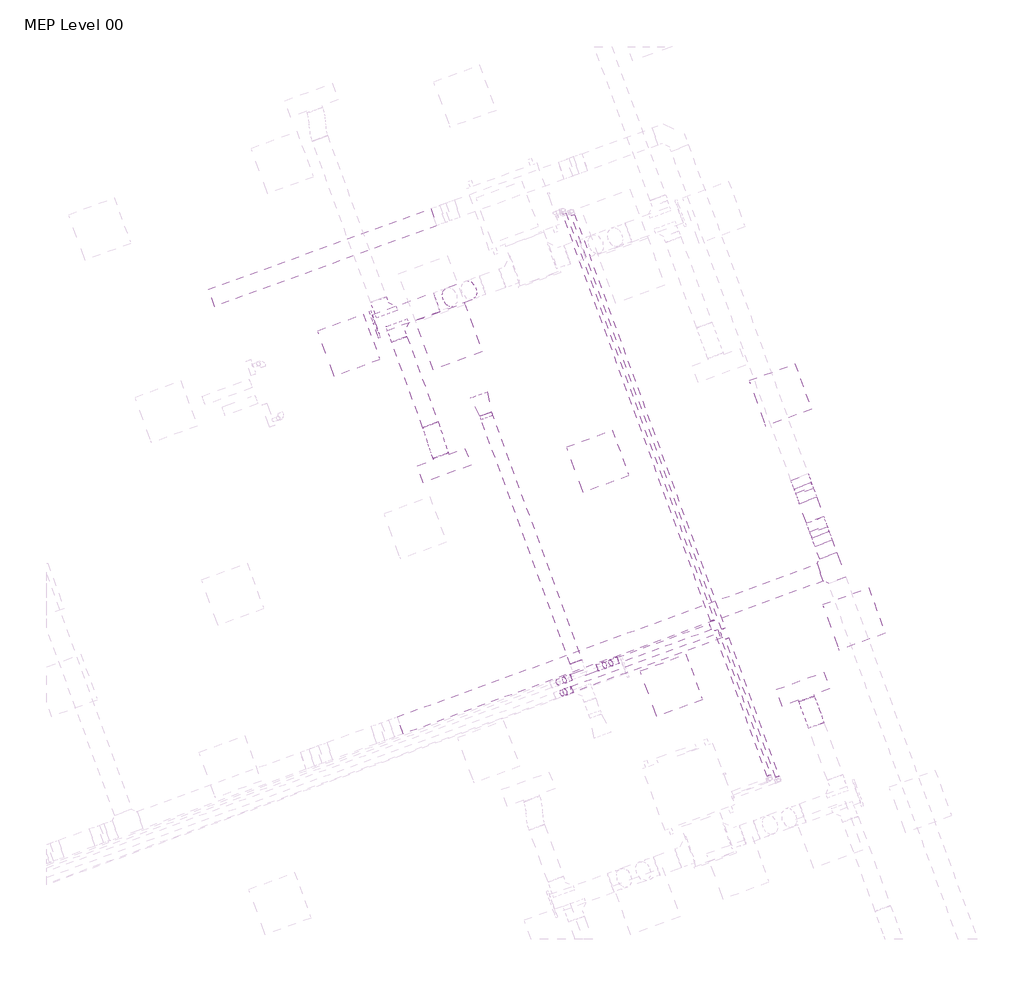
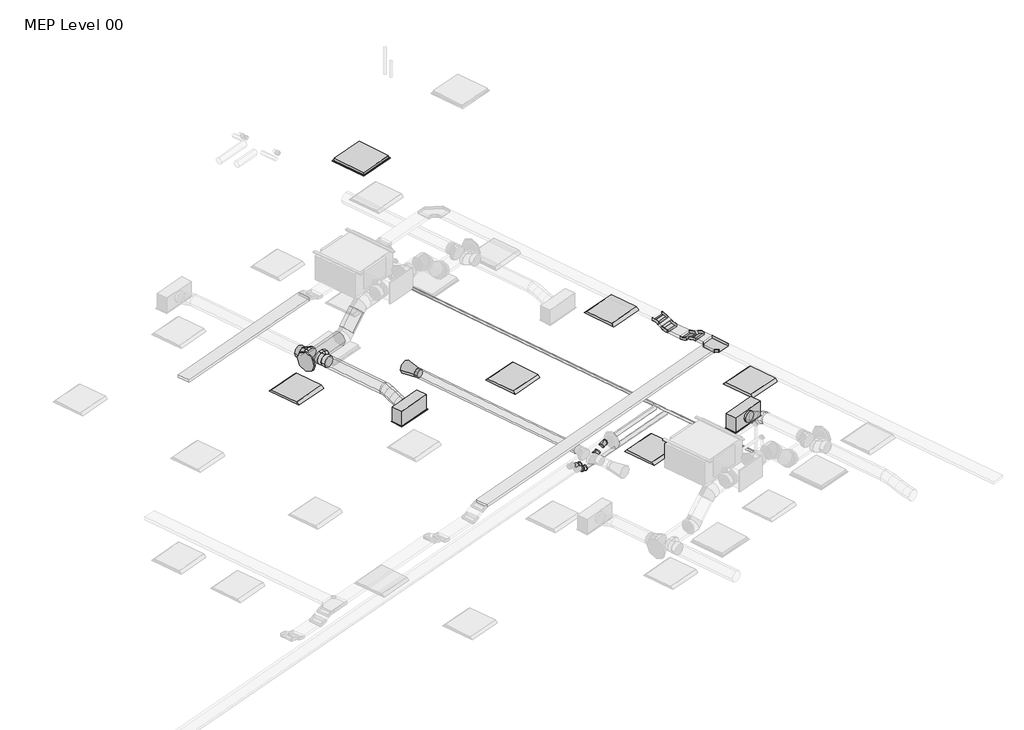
# One storey, part 31 of 33: 10 pipe segments, 6 cable carrier segments, 6 duct segments, 5 cable carrier fittings, 5 light fixtures, 4 air terminals, 4 pipe fittings, 3 duct fittings.
"""IFC4 building model written with IfcOpenShell, lengths in millimetres."""

from ifc_helpers import new_model, si_unit, point, frame, frame_2d, origin, place, context, project, spatial, polyline, circle_curve, ellipse_curve, trimmed, segment, composite_curve, outline, extrude, transform, mapped, element, save
from ifc_brep_helpers import plane_surface, cylinder_surface, advanced_brep
from components import air_terminal_b88b8e4d, return_grille_rectangular_hosted_standard_7b12617c, supply_diffuser_with_plenum_linear_slot_hosted_8c379eed, cable_tray_horizontal_tee_standard_d76b5e15, cable_tray_vertical_inside_bend_standard_9a66f55b, cable_tray_vertical_outside_bend_standard_4df2047e, dw144_round_blank_end_standard_e3d0b58b, dw144_round_shoe_branch_slip_joint_standard_559552f4, light_fixture_600x600_230_1c7c1157, light_fixture_600x600_230_b730b5ca, elbow_threaded_gmi_standard_e52ea759

model = new_model("IFC4")

# Units and contexts
model_context = context("Model", 3, world=origin())
ifc_project = project(units=[si_unit("LENGTHUNIT", "METRE", prefix="MILLI")], contexts=[model_context])

# Site, building, storey
site = spatial("IfcSite", under=ifc_project)
building = spatial("IfcBuilding", under=site)
storey = spatial("IfcBuildingStorey", under=building, Name="MEP Level 00", Elevation=0.0)

# Air terminals
placement = place(None, origin())
air_terminal_shape = air_terminal_b88b8e4d(model_context)
element("IfcAirTerminal", 1, ObjectType="Supply_Bell_Mouth_Grille : Supply_Bell_Mouth_Grille", at=placement, inside=storey, context=model_context, shape_type="MappedRepresentation", body=[
    mapped(air_terminal_shape, transform((58081.5319053, 19738.0197173, 3050.0), x_axis=(-0.3420201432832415, 0.9396926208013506, 0.0), y_axis=(-0.9396926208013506, -0.3420201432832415, 0.0), z_axis=(0.0, 0.0, 1.0))),
])
return_grille_rectangular_hosted_standard_shape = return_grille_rectangular_hosted_standard_7b12617c(model_context)
element("IfcAirTerminal", 2, ObjectType="Return Grille - Rectangular - Hosted : Standard", at=placement, inside=storey, context=model_context, shape_type="MappedRepresentation", body=[
    mapped(return_grille_rectangular_hosted_standard_shape, transform((57626.8548517, 20697.8106845, 6700.0), x_axis=(0.939692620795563, 0.34202014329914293, 0.0), y_axis=(0.34202014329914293, -0.939692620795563, 0.0), z_axis=(0.0, 0.0, -1.0))),
])
supply_diffuser_with_plenum_linear_slot_hosted_shape = supply_diffuser_with_plenum_linear_slot_hosted_8c379eed(model_context)
element("IfcAirTerminal", 3, ObjectType="Supply Diffuser with Plenum - Linear Slot - Hosted : 600mmx193.8mm-200 In Inlet  4-Slot", at=placement, inside=storey, context=model_context, shape_type="MappedRepresentation", body=[
    mapped(supply_diffuser_with_plenum_linear_slot_hosted_shape, transform((57569.9644345, 19099.8331807, 2800.0), x_axis=(0.939692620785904, 0.342020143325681, 0.0), y_axis=(0.342020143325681, -0.939692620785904, 0.0), z_axis=(0.0, 0.0, -1.0))),
])
element("IfcAirTerminal", 4, ObjectType="Supply Diffuser with Plenum - Linear Slot - Hosted : 600mmx193.8mm-200 In Inlet  4-Slot", at=placement, inside=storey, context=model_context, shape_type="MappedRepresentation", body=[
    mapped(supply_diffuser_with_plenum_linear_slot_hosted_shape, transform((62001.2706716, 16338.1811806, 2800.0), x_axis=(-0.9396926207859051, -0.3420201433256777, 0.0), y_axis=(-0.3420201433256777, 0.9396926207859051, 0.0), z_axis=(0.0, 0.0, -1.0))),
])

# Cable carrier fittings
cable_tray_horizontal_tee_standard_shape = cable_tray_horizontal_tee_standard_d76b5e15(model_context)
element("IfcCableCarrierFitting", 5, ObjectType="Cable Tray Horizontal Tee : Standard", at=placement, inside=storey, context=model_context, shape_type="MappedRepresentation", body=[
    mapped(cable_tray_horizontal_tee_standard_shape, transform((62366.6932534, 17834.0619919, 3248.9627355), x_axis=(0.3420201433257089, -0.9396926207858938, 0.0), y_axis=(0.9396926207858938, 0.3420201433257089, 0.0), z_axis=(0.0, 0.0, 1.0))),
])
cable_tray_vertical_inside_bend_standard_shape = cable_tray_vertical_inside_bend_standard_9a66f55b(model_context)
element("IfcCableCarrierFitting", 6, ObjectType="Cable Tray Vertical Inside Bend : Standard", at=placement, inside=storey, context=model_context, shape_type="MappedRepresentation", body=[
    mapped(cable_tray_vertical_inside_bend_standard_shape, transform((62173.4812107, 18364.9077165, 3148.9627355), x_axis=(0.3420201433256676, -0.9396926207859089, 0.0), y_axis=(0.0, 0.0, 1.0000000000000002), z_axis=(-0.9396926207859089, -0.3420201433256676, 0.0))),
])
element("IfcCableCarrierFitting", 7, ObjectType="Cable Tray Vertical Inside Bend : Standard", at=placement, inside=storey, context=model_context, shape_type="MappedRepresentation", body=[
    mapped(cable_tray_vertical_inside_bend_standard_shape, transform((62039.8978743, 18731.9249168, 3148.9627355), x_axis=(0.29619813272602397, -0.8137976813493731, -0.5000000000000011), y_axis=(0.17101007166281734, -0.4698463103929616, 0.8660254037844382), z_axis=(-0.9396926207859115, -0.3420201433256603, 0.0))),
])
cable_tray_vertical_outside_bend_standard_shape = cable_tray_vertical_outside_bend_standard_4df2047e(model_context)
element("IfcCableCarrierFitting", 8, ObjectType="Cable Tray Vertical Outside Bend : Standard", at=placement, inside=storey, context=model_context, shape_type="MappedRepresentation", body=[
    mapped(cable_tray_vertical_outside_bend_standard_shape, transform((62232.7208373, 18202.1481802, 3248.9627355), x_axis=(-0.34202014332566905, 0.9396926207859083, 0.0), y_axis=(0.0, 0.0, -1.0), z_axis=(-0.9396926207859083, -0.34202014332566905, 0.0))),
])
element("IfcCableCarrierFitting", 9, ObjectType="Cable Tray Vertical Outside Bend : Standard", at=placement, inside=storey, context=model_context, shape_type="MappedRepresentation", body=[
    mapped(cable_tray_vertical_outside_bend_standard_shape, transform((61980.6582478, 18894.6844531, 3248.9627355), x_axis=(-0.29619813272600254, 0.8137976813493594, 0.500000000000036), y_axis=(-0.1710100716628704, 0.4698463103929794, -0.866025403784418), z_axis=(-0.9396926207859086, -0.3420201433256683, 0.0))),
])

# Cable carrier segments
element("IfcCableCarrierSegment", 10, ObjectType="Perforated Cable Tray", at=placement, inside=storey, context=model_context, shape_type="SweptSolid", body=[
    extrude(outline(polyline([(57064.256116, 15784.4127054), (56987.3015838, 15995.8435451), (62175.5159364, 17884.1991384), (62252.4704687, 17672.7682988), (57064.256116, 15784.4127054)])), frame((0.0, 0.0, 3223.9627355), z_axis=(0.0, 0.0, 1.0), x_axis=(1.0, 0.0, 0.0)), (0.0, 0.0, 1.0), 50.0),
])
element("IfcCableCarrierSegment", 11, ObjectType="Perforated Cable Tray", at=placement, inside=storey, context=model_context, shape_type="SweptSolid", body=[
    extrude(outline(polyline([(62416.8304, 18025.2393089), (62205.3995603, 17948.2847766), (62149.9164227, 18100.7234443), (62361.3472624, 18177.6779766), (62416.8304, 18025.2393089)])), frame((0.0, 0.0, 3223.9627355), z_axis=(0.0, 0.0, 1.0), x_axis=(1.0, 0.0, 0.0)), (0.0, 0.0, 1.0), 50.0),
])
element("IfcCableCarrierSegment", 12, ObjectType="Perforated Cable Tray", at=placement, inside=storey, context=model_context, shape_type="SweptSolid", body=[
    extrude(outline(polyline([(0.0, -225.0), (0.0, 0.0), (66.0254038, 0.0), (66.0254037, -225.0), (0.0, -225.0)])), frame((62111.4391566, 18206.4388642, 3193.8184513), z_axis=(-0.1710100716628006, 0.4698463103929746, 0.8660254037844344), x_axis=(-0.29619813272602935, 0.8137976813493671, -0.5000000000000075)), (0.0, 0.0, 1.0), 50.0),
])
element("IfcCableCarrierSegment", 13, ObjectType="Perforated Cable Tray", at=placement, inside=storey, context=model_context, shape_type="SweptSolid", body=[
    extrude(outline(polyline([(62256.2856253, 18466.3324523), (62044.8547856, 18389.3779201), (61957.0934598, 18630.500181), (62168.5242995, 18707.4547132), (62256.2856253, 18466.3324523)])), frame((0.0, 0.0, 3123.9627355), z_axis=(0.0, 0.0, 1.0), x_axis=(1.0, 0.0, 0.0)), (0.0, 0.0, 1.0), 50.0),
])
element("IfcCableCarrierSegment", 14, ObjectType="Perforated Cable Tray", at=placement, inside=storey, context=model_context, shape_type="SweptSolid", body=[
    extrude(outline(polyline([(0.0, -225.0), (0.0, 0.0), (66.0254038, 0.0), (66.0254038, -225.0), (0.0, -225.0)])), frame((61910.0656901, 18759.7079163, 3160.8057494), z_axis=(0.17101007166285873, -0.469846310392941, 0.866025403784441), x_axis=(-0.2961981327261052, 0.8137976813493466, 0.49999999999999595)), (0.0, 0.0, 1.0), 50.0),
])
element("IfcCableCarrierSegment", 15, ObjectType="Perforated Cable Tray", at=placement, inside=storey, context=model_context, shape_type="SweptSolid", body=[
    extrude(outline(polyline([(57404.0868122, 22274.5262105), (57481.0413445, 22063.0953708), (54735.1563016, 21063.6749485), (54658.2017694, 21275.1057882), (57404.0868122, 22274.5262105)])), frame((0.0, 0.0, 3223.9627355), z_axis=(0.0, 0.0, 1.0), x_axis=(1.0, 0.0, 0.0)), (0.0, 0.0, 1.0), 50.0),
])

# Duct fittings
dw144_round_blank_end_standard_shape = dw144_round_blank_end_standard_e3d0b58b(model_context)
element("IfcDuctFitting", 16, ObjectType="DW144 Round Blank End : Standard", at=placement, inside=storey, context=model_context, shape_type="MappedRepresentation", body=[
    mapped(dw144_round_blank_end_standard_shape, transform((56721.6415567, 20844.3987052, 3072.2088531), x_axis=(-0.9396926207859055, -0.3420201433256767, 0.0), y_axis=(0.3420201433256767, -0.9396926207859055, 0.0), z_axis=(0.0, 0.0, 1.0))),
])
dw144_round_shoe_branch_slip_joint_standard_shape = dw144_round_shoe_branch_slip_joint_standard_559552f4(model_context)
element("IfcDuctFitting", 17, ObjectType="DW144 Round Shoe Branch - Slip Joint : Standard", at=placement, inside=storey, context=model_context, shape_type="MappedRepresentation", body=[
    mapped(dw144_round_shoe_branch_slip_joint_standard_shape, transform((56809.7266884, 21009.4812928, 3072.2088531), x_axis=(-0.3420201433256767, 0.9396926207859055, 0.0), y_axis=(0.9396926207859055, 0.3420201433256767, 0.0), z_axis=(0.0, 0.0, -1.0))),
])
element("IfcDuctFitting", 18, ObjectType="DW144 Round Shoe Branch - Slip Joint : Standard", at=placement, inside=storey, context=model_context, shape_type="MappedRepresentation", body=[
    mapped(dw144_round_shoe_branch_slip_joint_standard_shape, transform((56963.7838783, 20799.5090812, 3072.2088531), x_axis=(0.3420201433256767, -0.9396926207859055, 0.0), y_axis=(0.9396926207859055, 0.3420201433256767, 0.0), z_axis=(0.0, 0.0, 1.0))),
])

# Duct segments
element("IfcDuctSegment", 19, ObjectType="DW144 Segmented Bend / Shoe Branch", at=placement, inside=storey, context=model_context, shape_type="SweptSolid", body=[
    extrude(outline(composite_curve([segment(trimmed(circle_curve(frame_2d((0.0, 125.0)), 125.0), [point((125.0, 125.0))], [point((0.0, 0.0))], False, "CARTESIAN"), True, "CONTINUOUS"), segment(trimmed(circle_curve(frame_2d((0.0, 125.0)), 125.0), [point((0.0, 0.0))], [point((-125.0, 125.0))], False, "CARTESIAN"), True, "CONTINUOUS"), segment(trimmed(circle_curve(frame_2d((0.0, 125.0)), 125.0), [point((-125.0, 125.0))], [point((0.0, 250.0))], False, "CARTESIAN"), True, "CONTINUOUS"), segment(trimmed(circle_curve(frame_2d((0.0, 125.0)), 125.0), [point((0.0, 250.0))], [point((125.0, 125.0))], False, "CARTESIAN"), True, "CONTINUOUS")], self_intersect=False)), frame((56721.6415567, 20844.3987052, 3197.2088531), z_axis=(0.9396926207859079, 0.3420201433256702, 0.0), x_axis=(0.3420201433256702, -0.9396926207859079, 0.0)), (0.0, 0.0, 1.0), 801.6360845),
])
element("IfcDuctSegment", 20, ObjectType="DW144 Segmented Bend / Shoe Branch", at=placement, inside=storey, context=model_context, shape_type="SweptSolid", body=[
    extrude(outline(composite_curve([segment(trimmed(circle_curve(frame_2d((0.0, 100.0)), 100.0), [point((100.0, 100.0))], [point((0.0, 0.0))], False, "CARTESIAN"), True, "CONTINUOUS"), segment(trimmed(circle_curve(frame_2d((0.0, 100.0)), 100.0), [point((0.0, 0.0))], [point((-100.0, 100.0))], False, "CARTESIAN"), True, "CONTINUOUS"), segment(trimmed(circle_curve(frame_2d((0.0, 100.0)), 100.0), [point((-100.0, 100.0))], [point((0.0, 200.0))], False, "CARTESIAN"), True, "CONTINUOUS"), segment(trimmed(circle_curve(frame_2d((0.0, 100.0)), 100.0), [point((0.0, 200.0))], [point((100.0, 100.0))], False, "CARTESIAN"), True, "CONTINUOUS")], self_intersect=False)), frame((57399.1073496, 19603.4676736, 3172.2088531), z_axis=(-0.3420201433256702, 0.9396926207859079, 0.0), x_axis=(0.9396926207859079, 0.3420201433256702, 0.0)), (0.0, 0.0, 1.0), 1122.8006809),
])
element("IfcDuctSegment", 21, ObjectType="DW144 Segmented Bend / Shoe Branch", at=placement, inside=storey, context=model_context, shape_type="SweptSolid", body=[
    extrude(outline(composite_curve([segment(trimmed(circle_curve(frame_2d((0.0, -124.9999999)), 125.0), [point((-57.2076923, -13.8591886))], [point((111.1408113, -67.7923077))], False, "CARTESIAN"), True, "CONTINUOUS"), segment(trimmed(circle_curve(frame_2d((0.0, -124.9999999)), 125.0), [point((111.1408113, -67.7923077))], [point((57.2076923, -236.1408113))], False, "CARTESIAN"), True, "CONTINUOUS"), segment(trimmed(circle_curve(frame_2d((0.0, -124.9999999)), 125.0), [point((57.2076923, -236.1408113))], [point((-111.1408114, -182.2076923))], False, "CARTESIAN"), True, "CONTINUOUS"), segment(trimmed(circle_curve(frame_2d((0.0, -124.9999999)), 125.0), [point((-111.1408114, -182.2076923))], [point((-57.2076923, -13.8591886))], False, "CARTESIAN"), True, "CONTINUOUS")], self_intersect=False)), frame((57641.048826, 21297.3091654, 3104.9802107), z_axis=(0.664463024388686, 0.24184476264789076, 0.7071067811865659), x_axis=(0.7473211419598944, -0.21503058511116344, -0.6287073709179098)), (0.0, 0.0, 1.0), 354.8538129),
])
element("IfcDuctSegment", 22, ObjectType="DW144 Segmented Bend / Shoe Branch", at=placement, inside=storey, context=model_context, shape_type="SweptSolid", body=[
    extrude(outline(composite_curve([segment(trimmed(circle_curve(frame_2d((0.0, 75.0)), 75.0), [point((75.0, 75.0))], [point((0.0, 0.0))], False, "CARTESIAN"), True, "CONTINUOUS"), segment(trimmed(circle_curve(frame_2d((0.0, 75.0)), 75.0), [point((0.0, 0.0))], [point((-75.0000001, 75.0))], False, "CARTESIAN"), True, "CONTINUOUS"), segment(trimmed(circle_curve(frame_2d((0.0, 75.0)), 75.0), [point((-75.0000001, 75.0))], [point((0.0, 150.0))], False, "CARTESIAN"), True, "CONTINUOUS"), segment(trimmed(circle_curve(frame_2d((0.0, 75.0)), 75.0), [point((0.0, 150.0))], [point((75.0, 75.0))], False, "CARTESIAN"), True, "CONTINUOUS")], self_intersect=False)), frame((59197.2979604, 16672.4776751, 3125.0), z_axis=(-0.3420201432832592, 0.9396926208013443, 0.0), x_axis=(0.9396926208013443, 0.3420201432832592, 0.0)), (0.0, 0.0, 1.0), 3262.2817019),
])
element("IfcDuctSegment", 23, ObjectType="Flex - Round", at=placement, inside=storey, context=model_context, shape_type="AdvancedBrep", body=[
    advanced_brep(
    [(57493.0766117, 19637.669688, 3072.2088531), (57399.1073496, 19603.4676736, 2972.2088531), (57305.1380875, 19569.2656593, 3072.2088531), (57399.1073496, 19603.4676736, 3172.2088531), (57499.4980825, 19620.026842, 3072.2088531), (57401.4856469, 19596.9333555, 2972.2088531), (57310.8290271, 19553.6299313, 3072.2088531), (57408.8414627, 19576.7234177, 3172.2088531), (57619.8473001, 19255.1615739, 2954.4), (57525.878038, 19220.9595595, 3054.4), (57431.9087759, 19186.7575452, 2954.4), (57525.878038, 19220.9595595, 2854.4), (57527.3186901, 19538.1260265, 3053.3905604), (57422.5860609, 19534.8160527, 2957.9362042), (57337.4354126, 19475.3036527, 3054.2118792), (57442.1680418, 19478.6136265, 3149.6662355), (57557.67714, 19442.8628872, 3012.5672617), (57450.2568433, 19447.9866655, 2920.7270377), (57367.3082476, 19381.5643459, 3014.0415914), (57474.7285444, 19376.4405676, 3105.8818154), (57587.5499751, 19349.1235804, 2972.3969739), (57482.8173458, 19345.8136066, 2876.9426177), (57397.6666975, 19286.3012066, 2973.2182927), (57502.3993268, 19289.6111804, 3068.6726489), (57614.1563605, 19270.7973019, 2954.4), (57516.1439249, 19247.7038155, 2854.4), (57425.4873052, 19204.4003912, 2954.4), (57523.4997407, 19227.4938776, 3054.4)],
    [
        (0, 1, circle_curve(frame((57399.1073496, 19603.4676736, 3072.2088531), z_axis=(-0.3420201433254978, 0.9396926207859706, 0.0), x_axis=(0.9396926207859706, 0.3420201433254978, 0.0)), 100.0)),
        (1, 2, circle_curve(frame((57399.1073496, 19603.4676736, 3072.2088531), z_axis=(-0.3420201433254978, 0.9396926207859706, 0.0), x_axis=(0.9396926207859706, 0.3420201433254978, 0.0)), 100.0)),
        (2, 3, circle_curve(frame((57399.1073496, 19603.4676736, 3072.2088531), z_axis=(-0.3420201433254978, 0.9396926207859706, 0.0), x_axis=(0.9396926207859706, 0.3420201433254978, 0.0)), 100.0)),
        (3, 0, circle_curve(frame((57399.1073496, 19603.4676736, 3072.2088531), z_axis=(-0.3420201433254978, 0.9396926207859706, 0.0), x_axis=(0.9396926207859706, 0.3420201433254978, 0.0)), 100.0)),
        (0, 4),
        (4, 5, ellipse_curve(frame((57405.1635548, 19586.8283866, 3072.2088531), z_axis=(-0.33006294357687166, 0.9378849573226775, 0.10691239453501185), x_axis=(-0.12907576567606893, 0.06735376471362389, -0.9893446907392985)), 100.582195, 100.0)),
        (5, 1),
        (5, 6, ellipse_curve(frame((57405.1635548, 19586.8283866, 3072.2088531), z_axis=(-0.33006294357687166, 0.9378849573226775, 0.10691239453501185), x_axis=(-0.12907576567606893, 0.06735376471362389, -0.9893446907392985)), 100.582195, 100.0)),
        (6, 2),
        (6, 7, ellipse_curve(frame((57405.1635548, 19586.8283866, 3072.2088531), z_axis=(-0.33006294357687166, 0.9378849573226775, 0.10691239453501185), x_axis=(-0.12907576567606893, 0.06735376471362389, -0.9893446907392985)), 100.582195, 100.0)),
        (7, 3),
        (7, 4, ellipse_curve(frame((57405.1635548, 19586.8283866, 3072.2088531), z_axis=(-0.33006294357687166, 0.9378849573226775, 0.10691239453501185), x_axis=(-0.12907576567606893, 0.06735376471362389, -0.9893446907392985)), 100.582195, 100.0)),
        (8, 9, circle_curve(frame((57525.878038, 19220.9595595, 2954.4), z_axis=(0.3420201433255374, -0.9396926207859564, 0.0), x_axis=(0.9396926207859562, 0.3420201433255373, 0.0)), 100.0)),
        (9, 10, circle_curve(frame((57525.878038, 19220.9595595, 2954.4), z_axis=(0.3420201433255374, -0.9396926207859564, 0.0), x_axis=(0.9396926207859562, 0.3420201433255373, 0.0)), 100.0)),
        (10, 11, circle_curve(frame((57525.878038, 19220.9595595, 2954.4), z_axis=(0.3420201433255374, -0.9396926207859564, 0.0), x_axis=(0.9396926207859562, 0.3420201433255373, 0.0)), 100.0)),
        (11, 8, circle_curve(frame((57525.878038, 19220.9595595, 2954.4), z_axis=(0.3420201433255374, -0.9396926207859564, 0.0), x_axis=(0.9396926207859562, 0.3420201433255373, 0.0)), 100.0)),
        (4, 12),
        (12, 13, ellipse_curve(frame((57432.3770513, 19506.7148396, 3053.8012198), z_axis=(-0.2988301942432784, 0.9071022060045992, 0.2964221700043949), x_axis=(-0.1905324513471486, 0.24764957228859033, -0.9499300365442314)), 100.3812182, 100.0)),
        (13, 5),
        (13, 14, ellipse_curve(frame((57432.3770513, 19506.7148396, 3053.8012198), z_axis=(-0.2988301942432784, 0.9071022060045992, 0.2964221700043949), x_axis=(-0.1905324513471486, 0.24764957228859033, -0.9499300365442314)), 100.3812182, 100.0)),
        (14, 6),
        (14, 15, ellipse_curve(frame((57432.3770513, 19506.7148396, 3053.8012198), z_axis=(-0.2988301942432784, 0.9071022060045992, 0.2964221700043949), x_axis=(-0.1905324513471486, 0.24764957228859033, -0.9499300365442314)), 100.3812182, 100.0)),
        (15, 7),
        (15, 12, ellipse_curve(frame((57432.3770513, 19506.7148396, 3053.8012198), z_axis=(-0.2988301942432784, 0.9071022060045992, 0.2964221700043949), x_axis=(-0.1905324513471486, 0.24764957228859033, -0.9499300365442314)), 100.3812182, 100.0)),
        (12, 16),
        (16, 17, circle_curve(frame((57462.4926938, 19412.2136166, 3013.3044266), z_axis=(-0.2811058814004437, 0.8820947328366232, 0.37800577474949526), x_axis=(0.9518444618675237, 0.30649270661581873, -0.007371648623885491)), 100.0)),
        (17, 13),
        (17, 18, circle_curve(frame((57462.4926938, 19412.2136166, 3013.3044266), z_axis=(-0.2811058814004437, 0.8820947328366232, 0.37800577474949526), x_axis=(0.9518444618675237, 0.30649270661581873, -0.007371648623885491)), 100.0)),
        (18, 14),
        (18, 19, circle_curve(frame((57462.4926938, 19412.2136166, 3013.3044266), z_axis=(-0.2811058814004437, 0.8820947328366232, 0.37800577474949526), x_axis=(0.9518444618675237, 0.30649270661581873, -0.007371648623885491)), 100.0)),
        (19, 15),
        (19, 16, circle_curve(frame((57462.4926938, 19412.2136166, 3013.3044266), z_axis=(-0.2811058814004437, 0.8820947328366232, 0.37800577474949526), x_axis=(0.9518444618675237, 0.30649270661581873, -0.007371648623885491)), 100.0)),
        (16, 20),
        (20, 21, ellipse_curve(frame((57492.6083363, 19317.7123935, 2972.8076333), z_axis=(-0.29883019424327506, 0.9071022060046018, 0.29642217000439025), x_axis=(0.19053245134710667, -0.24764957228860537, 0.9499300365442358)), 100.3812182, 100.0)),
        (21, 17),
        (21, 22, ellipse_curve(frame((57492.6083363, 19317.7123935, 2972.8076333), z_axis=(-0.29883019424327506, 0.9071022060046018, 0.29642217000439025), x_axis=(0.19053245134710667, -0.24764957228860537, 0.9499300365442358)), 100.3812182, 100.0)),
        (22, 18),
        (22, 23, ellipse_curve(frame((57492.6083363, 19317.7123935, 2972.8076333), z_axis=(-0.29883019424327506, 0.9071022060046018, 0.29642217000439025), x_axis=(0.19053245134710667, -0.24764957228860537, 0.9499300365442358)), 100.3812182, 100.0)),
        (23, 19),
        (23, 20, ellipse_curve(frame((57492.6083363, 19317.7123935, 2972.8076333), z_axis=(-0.29883019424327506, 0.9071022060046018, 0.29642217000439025), x_axis=(0.19053245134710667, -0.24764957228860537, 0.9499300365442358)), 100.3812182, 100.0)),
        (20, 24),
        (24, 25, ellipse_curve(frame((57519.8218328, 19237.5988465, 2954.4), z_axis=(-0.3300629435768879, 0.9378849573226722, 0.10691239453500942), x_axis=(0.1290757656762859, -0.06735376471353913, 0.989344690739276)), 100.582195, 100.0)),
        (25, 21),
        (25, 26, ellipse_curve(frame((57519.8218328, 19237.5988465, 2954.4), z_axis=(-0.3300629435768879, 0.9378849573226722, 0.10691239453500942), x_axis=(0.1290757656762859, -0.06735376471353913, 0.989344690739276)), 100.582195, 100.0)),
        (26, 22),
        (26, 27, ellipse_curve(frame((57519.8218328, 19237.5988465, 2954.4), z_axis=(-0.3300629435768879, 0.9378849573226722, 0.10691239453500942), x_axis=(0.1290757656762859, -0.06735376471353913, 0.989344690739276)), 100.582195, 100.0)),
        (27, 23),
        (27, 24, ellipse_curve(frame((57519.8218328, 19237.5988465, 2954.4), z_axis=(-0.3300629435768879, 0.9378849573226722, 0.10691239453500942), x_axis=(0.1290757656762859, -0.06735376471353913, 0.989344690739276)), 100.582195, 100.0)),
        (24, 8),
        (11, 25),
        (10, 26),
        (9, 27),
    ],
    [
        plane_surface(frame((57399.1073496, 19603.4676736, 2972.2088531), z_axis=(-0.3420201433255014, 0.9396926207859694, 0.0), x_axis=(0.9396926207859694, 0.3420201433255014, 0.0))),
        cylinder_surface(frame((57399.1073496, 19603.4676736, 3072.2088531), z_axis=(-0.3420201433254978, 0.9396926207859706, 0.0), x_axis=(0.9396926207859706, 0.3420201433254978, 0.0)), 100.0),
        plane_surface(frame((57525.878038, 19220.9595595, 2854.4), z_axis=(0.3420201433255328, -0.9396926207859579, 0.0), x_axis=(0.9396926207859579, 0.3420201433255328, 0.0))),
        cylinder_surface(frame((57405.1635548, 19586.8283866, 3072.2088531), z_axis=(-0.31428476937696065, 0.9252198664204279, 0.21258711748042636), x_axis=(0.9467017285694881, 0.32210352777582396, -0.0022703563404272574)), 100.0),
        cylinder_surface(frame((57432.3770513, 19506.7148396, 3053.8012198), z_axis=(-0.2811058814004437, 0.8820947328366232, 0.37800577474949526), x_axis=(0.9518444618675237, 0.30649270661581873, -0.007371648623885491)), 100.0),
        cylinder_surface(frame((57462.4926938, 19412.2136166, 3013.3044266), z_axis=(-0.2811058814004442, 0.8820947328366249, 0.3780057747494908), x_axis=(0.9518444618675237, 0.3064927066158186, -0.007371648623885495)), 100.0),
        cylinder_surface(frame((57492.6083363, 19317.7123935, 2972.8076333), z_axis=(-0.31428476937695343, 0.9252198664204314, 0.21258711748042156), x_axis=(0.9467017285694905, 0.3221035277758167, -0.0022703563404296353)), 100.0),
        cylinder_surface(frame((57519.8218328, 19237.5988465, 2954.4), z_axis=(-0.3420201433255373, 0.9396926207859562, 0.0), x_axis=(0.9396926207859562, 0.3420201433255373, 0.0)), 100.0),
    ],
    [
        (0, [[1, 2, 3, 4]]),
        (1, [[-1, 5, 6, 7]]),
        (1, [[-2, -7, 8, 9]]),
        (1, [[-3, -9, 10, 11]]),
        (1, [[-4, -11, 12, -5]]),
        (2, [[13, 14, 15, 16]]),
        (3, [[-6, 17, 18, 19]]),
        (3, [[-8, -19, 20, 21]]),
        (3, [[-10, -21, 22, 23]]),
        (3, [[-12, -23, 24, -17]]),
        (4, [[-18, 25, 26, 27]]),
        (4, [[-20, -27, 28, 29]]),
        (4, [[-22, -29, 30, 31]]),
        (4, [[-24, -31, 32, -25]]),
        (5, [[-26, 33, 34, 35]]),
        (5, [[-28, -35, 36, 37]]),
        (5, [[-30, -37, 38, 39]]),
        (5, [[-32, -39, 40, -33]]),
        (6, [[-34, 41, 42, 43]]),
        (6, [[-36, -43, 44, 45]]),
        (6, [[-38, -45, 46, 47]]),
        (6, [[-40, -47, 48, -41]]),
        (7, [[-42, 49, -16, 50]]),
        (7, [[-44, -50, -15, 51]]),
        (7, [[-46, -51, -14, 52]]),
        (7, [[-48, -52, -13, -49]]),
    ],
),
])
element("IfcDuctSegment", 24, ObjectType="Flex - Round", at=placement, inside=storey, context=model_context, shape_type="AdvancedBrep", body=[
    advanced_brep(
    [(62070.0387428, 15856.9594371, 3072.2088531), (62164.8595282, 15888.724491, 2972.2088531), (62259.6803136, 15920.489545, 3072.2088531), (62164.8595282, 15888.724491, 3172.2088531), (62062.8978453, 15878.2754881, 3072.2088531), (62161.8405733, 15897.7362709, 2972.2088531), (62252.0842997, 15943.1641486, 3072.2088531), (62153.1415717, 15923.7033658, 3172.2088531), (61951.39074, 16182.8538554, 2955.1902253), (62046.099637, 16217.3250748, 3054.3968777), (62139.3233961, 16251.2557482, 2953.6097747), (62044.6144992, 16216.7845288, 2854.4031223), (62041.4461278, 15939.335541, 3054.1476892), (62147.0701791, 15939.7786414, 2959.7729951), (62229.8095608, 16006.5668452, 3053.4547505), (62124.1855096, 16006.1237448, 3147.8294445), (62012.3252458, 16018.9137687, 3014.0303512), (62120.3213538, 16012.8747829, 2922.923436), (62200.1377911, 16087.650476, 3012.5785019), (62092.1416832, 16093.6894618, 3103.6854171), (61982.4599011, 16098.8007868, 2973.6587219), (62087.4873233, 16100.7027593, 2878.5387713), (62170.0872638, 16168.0328405, 2971.9565447), (62065.0598416, 16166.130868, 3067.0764953), (61958.3787177, 16163.6545446, 2955.1902253), (62056.0167058, 16185.4572236, 2854.4031223), (62146.1648002, 16232.459145, 2953.6097747), (62048.5268121, 16210.6564659, 3054.3968777)],
    [
        (0, 1, circle_curve(frame((62164.8595282, 15888.724491, 3072.2088531), z_axis=(0.31765053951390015, -0.9482078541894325, 0.0), x_axis=(-0.9482078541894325, -0.31765053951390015, 0.0)), 100.0)),
        (1, 2, circle_curve(frame((62164.8595282, 15888.724491, 3072.2088531), z_axis=(0.31765053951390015, -0.9482078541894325, 0.0), x_axis=(-0.9482078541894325, -0.31765053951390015, 0.0)), 100.0)),
        (2, 3, circle_curve(frame((62164.8595282, 15888.724491, 3072.2088531), z_axis=(0.31765053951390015, -0.9482078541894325, 0.0), x_axis=(-0.9482078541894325, -0.31765053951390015, 0.0)), 100.0)),
        (3, 0, circle_curve(frame((62164.8595282, 15888.724491, 3072.2088531), z_axis=(0.31765053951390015, -0.9482078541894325, 0.0), x_axis=(-0.9482078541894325, -0.31765053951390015, 0.0)), 100.0)),
        (0, 4),
        (4, 5, ellipse_curve(frame((62157.4910725, 15910.7198184, 3072.2088531), z_axis=(0.3214358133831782, -0.9371637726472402, 0.13565795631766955), x_axis=(-0.00593082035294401, -0.1452502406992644, -0.9893771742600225)), 100.9356422, 100.0)),
        (5, 1),
        (5, 6, ellipse_curve(frame((62157.4910725, 15910.7198184, 3072.2088531), z_axis=(0.3214358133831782, -0.9371637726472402, 0.13565795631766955), x_axis=(-0.00593082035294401, -0.1452502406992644, -0.9893771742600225)), 100.9356422, 100.0)),
        (6, 2),
        (6, 7, ellipse_curve(frame((62157.4910725, 15910.7198184, 3072.2088531), z_axis=(0.3214358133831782, -0.9371637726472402, 0.13565795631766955), x_axis=(-0.00593082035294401, -0.1452502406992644, -0.9893771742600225)), 100.9356422, 100.0)),
        (7, 3),
        (7, 4, ellipse_curve(frame((62157.4910725, 15910.7198184, 3072.2088531), z_axis=(0.3214358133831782, -0.9371637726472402, 0.13565795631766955), x_axis=(-0.00593082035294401, -0.1452502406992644, -0.9893771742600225)), 100.9356422, 100.0)),
        (8, 9, circle_curve(frame((62045.3570681, 16217.0548018, 2954.4), z_axis=(-0.342020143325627, 0.9396926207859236, 0.0), x_axis=(-0.9396632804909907, -0.34200946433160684, 0.007902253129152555)), 100.0)),
        (9, 10, circle_curve(frame((62045.3570681, 16217.0548018, 2954.4), z_axis=(-0.342020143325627, 0.9396926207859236, 0.0), x_axis=(-0.9396632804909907, -0.34200946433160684, 0.007902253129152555)), 100.0)),
        (10, 11, circle_curve(frame((62045.3570681, 16217.0548018, 2954.4), z_axis=(-0.342020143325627, 0.9396926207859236, 0.0), x_axis=(-0.9396632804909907, -0.34200946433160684, 0.007902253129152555)), 100.0)),
        (11, 8, circle_curve(frame((62045.3570681, 16217.0548018, 2954.4), z_axis=(-0.342020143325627, 0.9396926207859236, 0.0), x_axis=(-0.9396632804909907, -0.34200946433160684, 0.007902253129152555)), 100.0)),
        (4, 12),
        (12, 13, ellipse_curve(frame((62135.6278443, 15972.9511931, 3053.8012198), z_axis=(0.3160800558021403, -0.8819650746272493, 0.3496155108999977), x_axis=(0.050857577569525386, -0.35222682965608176, -0.9345318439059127)), 100.3642371, 100.0)),
        (13, 5),
        (13, 14, ellipse_curve(frame((62135.6278443, 15972.9511931, 3053.8012198), z_axis=(0.3160800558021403, -0.8819650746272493, 0.3496155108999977), x_axis=(0.050857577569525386, -0.35222682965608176, -0.9345318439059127)), 100.3642371, 100.0)),
        (14, 6),
        (14, 15, ellipse_curve(frame((62135.6278443, 15972.9511931, 3053.8012198), z_axis=(0.3160800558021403, -0.8819650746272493, 0.3496155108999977), x_axis=(0.050857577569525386, -0.35222682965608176, -0.9345318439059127)), 100.3642371, 100.0)),
        (15, 7),
        (15, 12, ellipse_curve(frame((62135.6278443, 15972.9511931, 3053.8012198), z_axis=(0.3160800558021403, -0.8819650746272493, 0.3496155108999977), x_axis=(0.050857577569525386, -0.35222682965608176, -0.9345318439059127)), 100.3642371, 100.0)),
        (12, 16),
        (16, 17, ellipse_curve(frame((62106.2315185, 16053.2821224, 3013.3044266), z_axis=(0.3135563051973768, -0.8477071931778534, 0.4278725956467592), x_axis=(-0.9390190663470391, -0.3437936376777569, 0.007009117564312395)), 100.0004937, 100.0)),
        (17, 13),
        (17, 18, ellipse_curve(frame((62106.2315185, 16053.2821224, 3013.3044266), z_axis=(0.3135563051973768, -0.8477071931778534, 0.4278725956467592), x_axis=(-0.9390190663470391, -0.3437936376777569, 0.007009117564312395)), 100.0004937, 100.0)),
        (18, 14),
        (18, 19, ellipse_curve(frame((62106.2315185, 16053.2821224, 3013.3044266), z_axis=(0.3135563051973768, -0.8477071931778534, 0.4278725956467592), x_axis=(-0.9390190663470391, -0.3437936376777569, 0.007009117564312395)), 100.0004937, 100.0)),
        (19, 15),
        (19, 16, ellipse_curve(frame((62106.2315185, 16053.2821224, 3013.3044266), z_axis=(0.3135563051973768, -0.8477071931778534, 0.4278725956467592), x_axis=(-0.9390190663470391, -0.3437936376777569, 0.007009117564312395)), 100.0004937, 100.0)),
        (16, 20),
        (20, 21, ellipse_curve(frame((62076.2735824, 16133.4168136, 2972.8076333), z_axis=(0.32775514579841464, -0.8797914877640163, 0.34430147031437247), x_axis=(-0.10944660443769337, 0.32662018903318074, 0.9387974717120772)), 100.4120319, 100.0)),
        (21, 17),
        (21, 22, ellipse_curve(frame((62076.2735824, 16133.4168136, 2972.8076333), z_axis=(0.32775514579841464, -0.8797914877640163, 0.34430147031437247), x_axis=(-0.10944660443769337, 0.32662018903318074, 0.9387974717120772)), 100.4120319, 100.0)),
        (22, 18),
        (22, 23, ellipse_curve(frame((62076.2735824, 16133.4168136, 2972.8076333), z_axis=(0.32775514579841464, -0.8797914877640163, 0.34430147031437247), x_axis=(-0.10944660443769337, 0.32662018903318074, 0.9387974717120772)), 100.4120319, 100.0)),
        (23, 19),
        (23, 20, ellipse_curve(frame((62076.2735824, 16133.4168136, 2972.8076333), z_axis=(0.32775514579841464, -0.8797914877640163, 0.34430147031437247), x_axis=(-0.10944660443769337, 0.32662018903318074, 0.9387974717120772)), 100.4120319, 100.0)),
        (20, 24),
        (24, 25, ellipse_curve(frame((62052.271759, 16198.0568448, 2954.4), z_axis=(0.34207527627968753, -0.9306268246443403, 0.13007005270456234), x_axis=(-0.02192464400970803, 0.1304783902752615, 0.9912087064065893)), 100.8573078, 100.0)),
        (25, 21),
        (25, 26, ellipse_curve(frame((62052.271759, 16198.0568448, 2954.4), z_axis=(0.34207527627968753, -0.9306268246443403, 0.13007005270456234), x_axis=(-0.02192464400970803, 0.1304783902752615, 0.9912087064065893)), 100.8573078, 100.0)),
        (26, 22),
        (26, 27, ellipse_curve(frame((62052.271759, 16198.0568448, 2954.4), z_axis=(0.34207527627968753, -0.9306268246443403, 0.13007005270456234), x_axis=(-0.02192464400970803, 0.1304783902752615, 0.9912087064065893)), 100.8573078, 100.0)),
        (27, 23),
        (27, 24, ellipse_curve(frame((62052.271759, 16198.0568448, 2954.4), z_axis=(0.34207527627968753, -0.9306268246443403, 0.13007005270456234), x_axis=(-0.02192464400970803, 0.1304783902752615, 0.9912087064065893)), 100.8573078, 100.0)),
        (24, 8),
        (11, 25),
        (10, 26),
        (9, 27),
    ],
    [
        plane_surface(frame((62164.8595282, 15888.724491, 3172.2088531), z_axis=(0.31765053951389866, -0.9482078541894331, 0.0), x_axis=(0.9482078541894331, 0.31765053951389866, 0.0))),
        cylinder_surface(frame((62164.8595282, 15888.724491, 3072.2088531), z_axis=(0.31765053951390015, -0.9482078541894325, 0.0), x_axis=(-0.9482078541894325, -0.31765053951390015, 0.0)), 100.0),
        plane_surface(frame((62045.3570681, 16217.0548018, 3054.4), z_axis=(-0.3420201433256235, 0.939692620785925, 0.0), x_axis=(0.939692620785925, 0.3420201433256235, 0.0))),
        cylinder_surface(frame((62157.4910725, 15910.7198184, 3072.2088531), z_axis=(0.31926186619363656, -0.908745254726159, 0.26880089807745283), x_axis=(-0.9436451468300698, -0.33095336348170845, 0.001925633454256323)), 100.0),
        cylinder_surface(frame((62135.6278443, 15972.9511931, 3053.8012198), z_axis=(0.31060404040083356, -0.8487833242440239, 0.42789250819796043), x_axis=(-0.9400387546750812, -0.34101635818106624, 0.0059146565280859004)), 100.0),
        cylinder_surface(frame((62106.2315185, 16053.2821224, 3013.3044266), z_axis=(0.3165054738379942, -0.8466226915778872, 0.4278484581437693), x_axis=(-0.9380681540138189, -0.34634392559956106, 0.00860369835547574)), 100.0),
        cylinder_surface(frame((62076.2735824, 16133.4168136, 2972.8076333), z_axis=(0.3363149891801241, -0.9057399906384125, 0.25792886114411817), x_axis=(-0.9382097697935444, -0.3459637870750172, 0.008454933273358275)), 100.0),
        cylinder_surface(frame((62052.271759, 16198.0568448, 2954.4), z_axis=(0.342020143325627, -0.9396926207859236, 0.0), x_axis=(-0.9396632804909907, -0.34200946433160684, 0.007902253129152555)), 100.0),
    ],
    [
        (0, [[1, 2, 3, 4]]),
        (1, [[-1, 5, 6, 7]]),
        (1, [[-2, -7, 8, 9]]),
        (1, [[-3, -9, 10, 11]]),
        (1, [[-4, -11, 12, -5]]),
        (2, [[13, 14, 15, 16]]),
        (3, [[-6, 17, 18, 19]]),
        (3, [[-8, -19, 20, 21]]),
        (3, [[-10, -21, 22, 23]]),
        (3, [[-12, -23, 24, -17]]),
        (4, [[-18, 25, 26, 27]]),
        (4, [[-20, -27, 28, 29]]),
        (4, [[-22, -29, 30, 31]]),
        (4, [[-24, -31, 32, -25]]),
        (5, [[-26, 33, 34, 35]]),
        (5, [[-28, -35, 36, 37]]),
        (5, [[-30, -37, 38, 39]]),
        (5, [[-32, -39, 40, -33]]),
        (6, [[-34, 41, 42, 43]]),
        (6, [[-36, -43, 44, 45]]),
        (6, [[-38, -45, 46, 47]]),
        (6, [[-40, -47, 48, -41]]),
        (7, [[-42, 49, -16, 50]]),
        (7, [[-44, -50, -15, 51]]),
        (7, [[-46, -51, -14, 52]]),
        (7, [[-48, -52, -13, -49]]),
    ],
),
])

# Light fixtures
light_fixture_600x600_230_shape = light_fixture_600x600_230_1c7c1157(model_context)
element("IfcLightFixture", 25, ObjectType="ELEKTRA Recessed Lighting Fixture : 600x600 - 230", at=placement, inside=storey, context=model_context, shape_type="MappedRepresentation", body=[
    mapped(light_fixture_600x600_230_shape, transform((60196.2235082, 16000.4510734, 2800.0), x_axis=(0.9396926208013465, 0.3420201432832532, 0.0), y_axis=(0.3420201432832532, -0.9396926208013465, 0.0), z_axis=(0.0, 0.0, -1.0))),
])
element("IfcLightFixture", 26, ObjectType="ELEKTRA Recessed Lighting Fixture : 600x600 - 230", at=placement, inside=storey, context=model_context, shape_type="MappedRepresentation", body=[
    mapped(light_fixture_600x600_230_shape, transform((59287.3214946, 18767.140037, 2800.0), x_axis=(0.9396926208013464, 0.34202014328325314, 0.0), y_axis=(0.34202014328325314, -0.9396926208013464, 0.0), z_axis=(0.0, 0.0, -1.0))),
])
element("IfcLightFixture", 27, ObjectType="ELEKTRA Recessed Lighting Fixture : 600x600 - 230", at=placement, inside=storey, context=model_context, shape_type="MappedRepresentation", body=[
    mapped(light_fixture_600x600_230_shape, transform((56211.2108608, 20201.553983, 2800.0), x_axis=(0.9396926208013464, 0.34202014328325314, 0.0), y_axis=(0.34202014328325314, -0.9396926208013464, 0.0), z_axis=(0.0, 0.0, -1.0))),
])
light_fixture_600x600_230_2_shape = light_fixture_600x600_230_b730b5ca(model_context)
element("IfcLightFixture", 28, ObjectType="ELEKTRA EM Recessed Lighting Fixture : 600x600 - 230", at=placement, inside=storey, context=model_context, shape_type="MappedRepresentation", body=[
    mapped(light_fixture_600x600_230_2_shape, transform((62451.4857981, 16821.2994172, 2800.0), x_axis=(0.9396926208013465, 0.3420201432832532, 0.0), y_axis=(0.3420201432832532, -0.9396926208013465, 0.0), z_axis=(0.0, 0.0, -1.0))),
])
element("IfcLightFixture", 29, ObjectType="ELEKTRA EM Recessed Lighting Fixture : 600x600 - 230", at=placement, inside=storey, context=model_context, shape_type="MappedRepresentation", body=[
    mapped(light_fixture_600x600_230_2_shape, transform((61542.5837845, 19587.9883808, 2800.0), x_axis=(0.9396926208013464, 0.34202014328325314, 0.0), y_axis=(0.34202014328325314, -0.9396926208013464, 0.0), z_axis=(0.0, 0.0, -1.0))),
])

# Pipe fittings
elbow_threaded_gmi_standard_shape = elbow_threaded_gmi_standard_e52ea759(model_context)
element("IfcPipeFitting", 30, ObjectType="Elbow - Threaded - GMI : Standard", at=placement, inside=storey, context=model_context, shape_type="MappedRepresentation", body=[
    mapped(elbow_threaded_gmi_standard_shape, transform((59095.4127432, 16467.5161953, 2900.0), x_axis=(-0.9396926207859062, -0.34202014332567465, 0.0), y_axis=(0.0, 0.0, 1.0), z_axis=(-0.34202014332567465, 0.9396926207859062, 0.0))),
])
element("IfcPipeFitting", 31, ObjectType="Elbow - Threaded - GMI : Standard", at=placement, inside=storey, context=model_context, shape_type="MappedRepresentation", body=[
    mapped(elbow_threaded_gmi_standard_shape, transform((59506.806633, 16617.2513258, 2900.0), x_axis=(-0.8137976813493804, -0.2961981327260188, -0.4999999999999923), y_axis=(-0.46984631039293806, -0.1710100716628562, 0.8660254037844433), z_axis=(-0.3420201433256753, 0.9396926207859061, 0.0))),
])
element("IfcPipeFitting", 32, ObjectType="Elbow - Threaded - GMI : Standard", at=placement, inside=storey, context=model_context, shape_type="MappedRepresentation", body=[
    mapped(elbow_threaded_gmi_standard_shape, transform((59669.5661693, 16676.4909523, 3000.0), x_axis=(0.8137976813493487, 0.2961981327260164, 0.5000000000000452), y_axis=(0.4698463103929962, 0.17101007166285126, -0.8660254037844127), z_axis=(-0.34202014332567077, 0.9396926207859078, 0.0))),
])
element("IfcPipeFitting", 33, ObjectType="Elbow - Threaded - GMI : Standard", at=placement, inside=storey, context=model_context, shape_type="MappedRepresentation", body=[
    mapped(elbow_threaded_gmi_standard_shape, transform((59103.488451, 16318.7239262, 2925.0), x_axis=(-0.9396926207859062, -0.34202014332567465, 0.0), y_axis=(0.0, 0.0, 1.0), z_axis=(-0.34202014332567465, 0.9396926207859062, 0.0))),
])

# Pipe segments
element("IfcPipeSegment", 34, ObjectType="Carbon Steel - Threaded", at=placement, inside=storey, context=model_context, shape_type="SweptSolid", body=[
    extrude(outline(composite_curve([segment(trimmed(circle_curve(frame_2d((0.0, 38.3)), 38.3), [point((38.3, 38.3))], [point((0.0, 0.0))], False, "CARTESIAN"), True, "CONTINUOUS"), segment(trimmed(circle_curve(frame_2d((0.0, 38.3)), 38.3), [point((0.0, 0.0))], [point((-38.2999999, 38.3))], False, "CARTESIAN"), True, "CONTINUOUS"), segment(trimmed(circle_curve(frame_2d((0.0, 38.3)), 38.3), [point((-38.2999999, 38.3))], [point((0.0, 76.6))], False, "CARTESIAN"), True, "CONTINUOUS"), segment(trimmed(circle_curve(frame_2d((0.0, 38.3)), 38.3), [point((0.0, 76.6))], [point((38.3, 38.3))], False, "CARTESIAN"), True, "CONTINUOUS")], self_intersect=False)), frame((59716.5508004, 16693.5919595, 3038.3), z_axis=(0.9396926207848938, 0.3420201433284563, 0.0), x_axis=(0.3420201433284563, -0.9396926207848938, 0.0)), (0.0, 0.0, 1.0), 1211.1712381),
])
element("IfcPipeSegment", 35, ObjectType="Carbon Steel - Threaded", at=placement, inside=storey, context=model_context, shape_type="SweptSolid", body=[
    extrude(outline(composite_curve([segment(trimmed(circle_curve(frame_2d((0.0, -38.3)), 38.3), [point((22.5404974, -69.2647538))], [point((-30.9647537, -60.8404974))], False, "CARTESIAN"), True, "CONTINUOUS"), segment(trimmed(circle_curve(frame_2d((0.0, -38.3)), 38.3), [point((-30.9647537, -60.8404974))], [point((-22.5404973, -7.3352462))], False, "CARTESIAN"), True, "CONTINUOUS"), segment(trimmed(circle_curve(frame_2d((0.0, -38.3)), 38.3), [point((-22.5404973, -7.3352462))], [point((30.9647539, -15.7595026))], False, "CARTESIAN"), True, "CONTINUOUS"), segment(trimmed(circle_curve(frame_2d((0.0, -38.3)), 38.3), [point((30.9647539, -15.7595026))], [point((22.5404974, -69.2647538))], False, "CARTESIAN"), True, "CONTINUOUS")], self_intersect=False)), frame((59054.7228591, 16485.6582914, 2944.5206433), z_axis=(-0.8137976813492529, -0.2961981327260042, 0.5000000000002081), x_axis=(0.5811482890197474, -0.41477426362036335, 0.7001635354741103)), (0.0, 0.0, 1.0), 100.0),
])
element("IfcPipeSegment", 36, ObjectType="Carbon Steel - Threaded", at=placement, inside=storey, context=model_context, shape_type="SweptSolid", body=[
    extrude(outline(composite_curve([segment(trimmed(circle_curve(frame_2d((0.0, 38.3)), 38.3), [point((38.3, 38.3))], [point((0.0, 0.0))], False, "CARTESIAN"), True, "CONTINUOUS"), segment(trimmed(circle_curve(frame_2d((0.0, 38.3)), 38.3), [point((0.0, 0.0))], [point((-38.2999999, 38.3))], False, "CARTESIAN"), True, "CONTINUOUS"), segment(trimmed(circle_curve(frame_2d((0.0, 38.3)), 38.3), [point((-38.2999999, 38.3))], [point((0.0, 76.6))], False, "CARTESIAN"), True, "CONTINUOUS"), segment(trimmed(circle_curve(frame_2d((0.0, 38.3)), 38.3), [point((0.0, 76.6))], [point((38.3, 38.3))], False, "CARTESIAN"), True, "CONTINUOUS")], self_intersect=False)), frame((59142.3973743, 16484.6172025, 2938.3), z_axis=(0.9396926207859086, 0.34202014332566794, 0.0), x_axis=(0.34202014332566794, -0.9396926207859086, 0.0)), (0.0, 0.0, 1.0), 337.7962333),
])
element("IfcPipeSegment", 37, ObjectType="Carbon Steel - Threaded", at=placement, inside=storey, context=model_context, shape_type="SweptSolid", body=[
    extrude(outline(composite_curve([segment(trimmed(circle_curve(frame_2d((0.0, 38.3)), 38.3), [point((22.5404974, 7.3352461))], [point((-30.9647538, 15.7595025))], False, "CARTESIAN"), True, "CONTINUOUS"), segment(trimmed(circle_curve(frame_2d((0.0, 38.3)), 38.3), [point((-30.9647538, 15.7595025))], [point((-22.5404974, 69.2647538))], False, "CARTESIAN"), True, "CONTINUOUS"), segment(trimmed(circle_curve(frame_2d((0.0, 38.3)), 38.3), [point((-22.5404974, 69.2647538))], [point((30.9647538, 60.8404973))], False, "CARTESIAN"), True, "CONTINUOUS"), segment(trimmed(circle_curve(frame_2d((0.0, 38.3)), 38.3), [point((30.9647538, 60.8404973))], [point((22.5404974, 7.3352461))], False, "CARTESIAN"), True, "CONTINUOUS")], self_intersect=False)), frame((59547.4965171, 16599.1092297, 2944.5206433), z_axis=(0.8137976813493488, 0.29619813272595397, 0.5000000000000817), x_axis=(0.581148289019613, -0.4147742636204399, -0.7001635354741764)), (0.0, 0.0, 1.0), 100.0),
])
element("IfcPipeSegment", 38, ObjectType="Carbon Steel - Threaded", at=placement, inside=storey, context=model_context, shape_type="SweptSolid", body=[
    extrude(outline(composite_curve([segment(trimmed(circle_curve(frame_2d((1e-07, -38.3)), 38.3), [point((22.5404974, -69.2647538))], [point((-30.9647538, -60.8404974))], False, "CARTESIAN"), True, "CONTINUOUS"), segment(trimmed(circle_curve(frame_2d((1e-07, -38.3)), 38.3), [point((-30.9647538, -60.8404974))], [point((-22.5404973, -7.3352462))], False, "CARTESIAN"), True, "CONTINUOUS"), segment(trimmed(circle_curve(frame_2d((1e-07, -38.3)), 38.3), [point((-22.5404973, -7.3352462))], [point((30.9647539, -15.7595026))], False, "CARTESIAN"), True, "CONTINUOUS"), segment(trimmed(circle_curve(frame_2d((1e-07, -38.3)), 38.3), [point((30.9647539, -15.7595026))], [point((22.5404974, -69.2647538))], False, "CARTESIAN"), True, "CONTINUOUS")], self_intersect=False)), frame((59062.7985669, 16336.8660223, 2969.5206433), z_axis=(-0.8137976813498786, -0.2961981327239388, 0.5000000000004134), x_axis=(0.5811482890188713, -0.41477426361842, 0.7001635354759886)), (0.0, 0.0, 1.0), 50.0),
])
element("IfcPipeSegment", 39, ObjectType="Carbon Steel - Threaded", at=placement, inside=storey, context=model_context, shape_type="SweptSolid", body=[
    extrude(outline(composite_curve([segment(trimmed(circle_curve(frame_2d((0.0, 38.3)), 38.3), [point((38.2999999, 38.3))], [point((0.0, 0.0))], False, "CARTESIAN"), True, "CONTINUOUS"), segment(trimmed(circle_curve(frame_2d((0.0, 38.3)), 38.3), [point((0.0, 0.0))], [point((-38.3, 38.3))], False, "CARTESIAN"), True, "CONTINUOUS"), segment(trimmed(circle_curve(frame_2d((0.0, 38.3)), 38.3), [point((-38.3, 38.3))], [point((0.0, 76.6))], False, "CARTESIAN"), True, "CONTINUOUS"), segment(trimmed(circle_curve(frame_2d((0.0, 38.3)), 38.3), [point((0.0, 76.6))], [point((38.2999999, 38.3))], False, "CARTESIAN"), True, "CONTINUOUS")], self_intersect=False)), frame((59150.473082, 16335.8249333, 2963.3), z_axis=(0.9396926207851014, 0.34202014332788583, 0.0), x_axis=(0.34202014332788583, -0.9396926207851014, 0.0)), (0.0, 0.0, 1.0), 1959.2419242),
])
element("IfcPipeSegment", 40, ObjectType="Carbon Steel - Threaded", at=placement, inside=storey, context=model_context, shape_type="SweptSolid", body=[
    extrude(outline(composite_curve([segment(trimmed(circle_curve(frame_2d((0.0, 21.45)), 21.45), [point((21.45, 21.45))], [point((0.0, 0.0))], False, "CARTESIAN"), True, "CONTINUOUS"), segment(trimmed(circle_curve(frame_2d((0.0, 21.45)), 21.45), [point((0.0, 0.0))], [point((-21.4500001, 21.45))], False, "CARTESIAN"), True, "CONTINUOUS"), segment(trimmed(circle_curve(frame_2d((0.0, 21.45)), 21.45), [point((-21.4500001, 21.45))], [point((0.0, 42.9))], False, "CARTESIAN"), True, "CONTINUOUS"), segment(trimmed(circle_curve(frame_2d((0.0, 21.45)), 21.45), [point((0.0, 42.9))], [point((21.45, 21.45))], False, "CARTESIAN"), True, "CONTINUOUS")], self_intersect=False)), frame((60882.5277361, 17184.4733269, 3021.45), z_axis=(-0.3420201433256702, 0.9396926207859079, 0.0), x_axis=(0.9396926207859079, 0.3420201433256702, 0.0)), (0.0, 0.0, 1.0), 5350.2384505),
])
element("IfcPipeSegment", 41, ObjectType="Carbon Steel - Threaded", at=placement, inside=storey, context=model_context, shape_type="SweptSolid", body=[
    extrude(outline(composite_curve([segment(trimmed(circle_curve(frame_2d((0.0, 21.45)), 21.45), [point((21.4500001, 21.45))], [point((0.0, 0.0))], False, "CARTESIAN"), True, "CONTINUOUS"), segment(trimmed(circle_curve(frame_2d((0.0, 21.45)), 21.45), [point((0.0, 0.0))], [point((-21.45, 21.45))], False, "CARTESIAN"), True, "CONTINUOUS"), segment(trimmed(circle_curve(frame_2d((0.0, 21.45)), 21.45), [point((-21.45, 21.45))], [point((0.0, 42.9))], False, "CARTESIAN"), True, "CONTINUOUS"), segment(trimmed(circle_curve(frame_2d((0.0, 21.45)), 21.45), [point((0.0, 42.9))], [point((21.4500001, 21.45))], False, "CARTESIAN"), True, "CONTINUOUS")], self_intersect=False)), frame((61579.0334233, 15270.8396786, 3021.45), z_axis=(-0.3420201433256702, 0.9396926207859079, 0.0), x_axis=(0.9396926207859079, 0.3420201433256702, 0.0)), (0.0, 0.0, 1.0), 1911.4663932),
])
element("IfcPipeSegment", 42, ObjectType="Carbon Steel - Threaded", at=placement, inside=storey, context=model_context, shape_type="SweptSolid", body=[
    extrude(outline(composite_curve([segment(trimmed(circle_curve(frame_2d((0.0, 21.45)), 21.45), [point((21.45, 21.45))], [point((0.0, 0.0))], False, "CARTESIAN"), True, "CONTINUOUS"), segment(trimmed(circle_curve(frame_2d((0.0, 21.45)), 21.45), [point((0.0, 0.0))], [point((-21.45, 21.45))], False, "CARTESIAN"), True, "CONTINUOUS"), segment(trimmed(circle_curve(frame_2d((0.0, 21.45)), 21.45), [point((-21.45, 21.45))], [point((0.0, 42.9))], False, "CARTESIAN"), True, "CONTINUOUS"), segment(trimmed(circle_curve(frame_2d((0.0, 21.45)), 21.45), [point((0.0, 42.9))], [point((21.45, 21.45))], False, "CARTESIAN"), True, "CONTINUOUS")], self_intersect=False)), frame((61019.4065213, 17082.5615441, 2946.45), z_axis=(-0.3420201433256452, 0.939692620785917, 0.0), x_axis=(0.939692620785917, 0.3420201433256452, 0.0)), (0.0, 0.0, 1.0), 5442.0195026),
])
element("IfcPipeSegment", 43, ObjectType="Carbon Steel - Threaded", at=placement, inside=storey, context=model_context, shape_type="SweptSolid", body=[
    extrude(outline(composite_curve([segment(trimmed(circle_curve(frame_2d((0.0, -21.45)), 21.45), [point((-21.45, -21.45))], [point((0.0, 0.0))], False, "CARTESIAN"), True, "CONTINUOUS"), segment(trimmed(circle_curve(frame_2d((0.0, -21.45)), 21.45), [point((0.0, 0.0))], [point((21.45, -21.45))], False, "CARTESIAN"), True, "CONTINUOUS"), segment(trimmed(circle_curve(frame_2d((0.0, -21.45)), 21.45), [point((21.45, -21.45))], [point((0.0, -42.9))], False, "CARTESIAN"), True, "CONTINUOUS"), segment(trimmed(circle_curve(frame_2d((0.0, -21.45)), 21.45), [point((0.0, -42.9))], [point((-21.45, -21.45))], False, "CARTESIAN"), True, "CONTINUOUS")], self_intersect=False)), frame((61684.52124, 15255.173873, 2903.55), z_axis=(-0.34202014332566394, 0.9396926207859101, 0.0), x_axis=(0.9396926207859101, 0.34202014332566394, 0.0)), (0.0, 0.0, 1.0), 1819.6853412),
])

save(model, "model.ifc")
